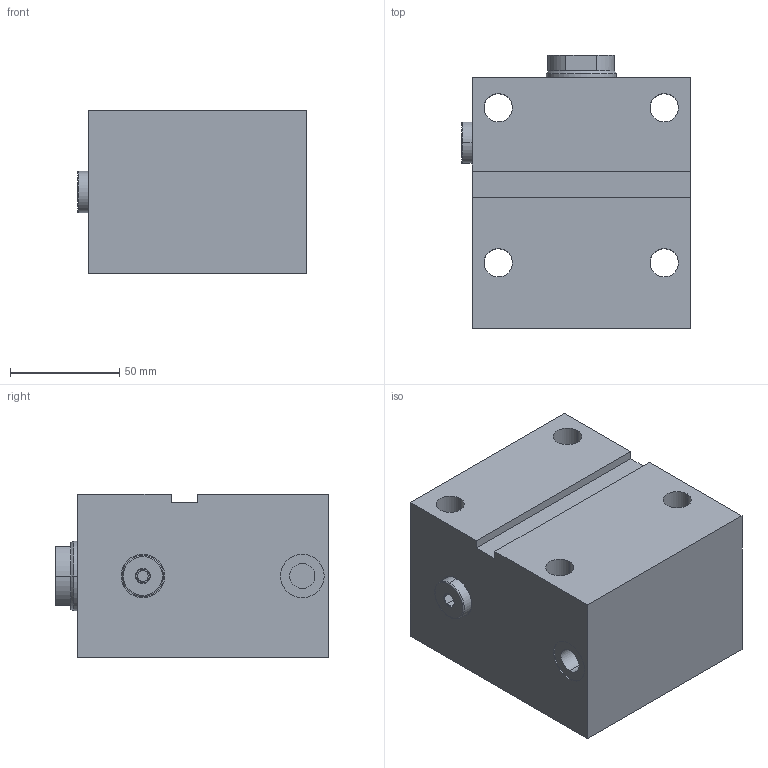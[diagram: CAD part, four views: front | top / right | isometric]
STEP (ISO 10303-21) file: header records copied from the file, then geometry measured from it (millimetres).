
FILE_DESCRIPTION (( 'STEP AP203' ), '1' );
FILE_NAME ('GERMA_Blockzylinder_651-050-020.STEP', '2023-08-26T16:18:05', ( '' ), ( '' ), 'SwSTEP 2.0', 'SolidWorks 2016', '' );
FILE_SCHEMA (( 'CONFIG_CONTROL_DESIGN' ));
Length unit declared in the file: millimetre
Products named in the file (3): GERMA_Blockzylinder_651-050-020; GH-600-050-ew_GH-651-050-020; Kolben 60x-050_Kolben DU.50-Hub50-IG
Assembly tree (2 placements, depth 2):
  GERMA_Blockzylinder_651-050-020
    GH-600-050-ew_GH-651-050-020
    Kolben 60x-050_Kolben DU.50-Hub50-IG
Bounding box: 104.8 x 125 x 75 mm (x, y, z)
Volume: 787549.1 mm3; surface area: 102337.5 mm2
Topology: 2 solids, 2 shells, 99 faces, 227 edges, 142 vertices
Faces by surface type: cylinder 41, plane 35, cone 21, torus 2
Entity records: 3141 total; most frequent: CARTESIAN_POINT 530, DIRECTION 526, ORIENTED_EDGE 442, EDGE_CURVE 221, AXIS2_PLACEMENT_3D 208, VERTEX_POINT 142, EDGE_LOOP 123, VECTOR 110
